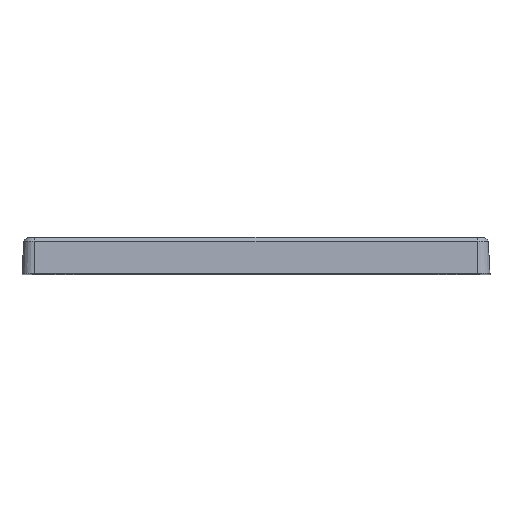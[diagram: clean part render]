
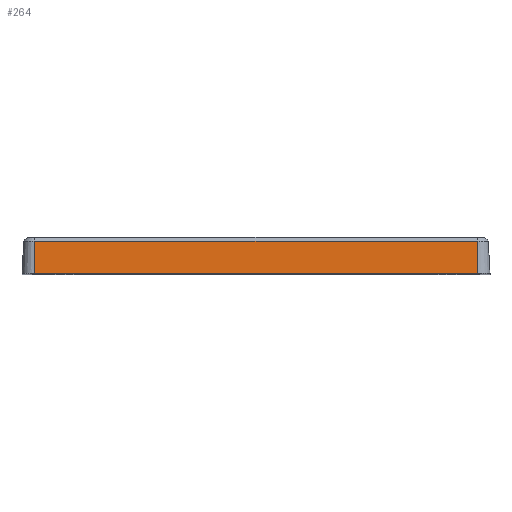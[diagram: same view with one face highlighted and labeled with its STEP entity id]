
A CAD part, top view. The second image highlights one B-rep face of the part: STEP entity #264.
In plain terms, the highlighted planar face has unit normal (0, 0.052, 0.999).
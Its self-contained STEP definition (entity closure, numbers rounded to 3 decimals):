
#65 = EDGE_CURVE ( 'NONE', #285, #269, #865, .T. ) ;
#264 = ADVANCED_FACE ( 'NONE', ( #1247 ), #1246, .T. ) ;
#265 = EDGE_LOOP ( 'NONE', ( #266, #270, #272, #273 ) ) ;
#266 = ORIENTED_EDGE ( 'NONE', *, *, #267, .F. ) ;
#267 = EDGE_CURVE ( 'NONE', #268, #269, #1241, .T. ) ;
#268 = VERTEX_POINT ( 'NONE', #1424 ) ;
#269 = VERTEX_POINT ( 'NONE', #1423 ) ;
#270 = ORIENTED_EDGE ( 'NONE', *, *, #271, .T. ) ;
#271 = EDGE_CURVE ( 'NONE', #268, #284, #1422, .T. ) ;
#272 = ORIENTED_EDGE ( 'NONE', *, *, #283, .T. ) ;
#273 = ORIENTED_EDGE ( 'NONE', *, *, #65, .T. ) ;
#283 = EDGE_CURVE ( 'NONE', #284, #285, #1408, .T. ) ;
#284 = VERTEX_POINT ( 'NONE', #1399 ) ;
#285 = VERTEX_POINT ( 'NONE', #1398 ) ;
#862 = DIRECTION ( 'NONE',  ( 1., 0., 0. ) ) ;
#863 = VECTOR ( 'NONE', #862, 1000. ) ;
#864 = CARTESIAN_POINT ( 'NONE',  ( -61.5, 0., 90. ) ) ;
#865 = LINE ( 'NONE', #864, #863 ) ;
#1240 = CARTESIAN_POINT ( 'NONE',  ( 61.5, 0., 90. ) ) ;
#1241 = LINE ( 'NONE', #1240, #1426 ) ;
#1242 = DIRECTION ( 'NONE',  ( 0., -0.999, 0.052 ) ) ;
#1243 = DIRECTION ( 'NONE',  ( 0., 0.052, 0.999 ) ) ;
#1244 = CARTESIAN_POINT ( 'NONE',  ( -61.5, 0., 90. ) ) ;
#1245 = AXIS2_PLACEMENT_3D ( 'NONE', #1244, #1243, #1242 ) ;
#1246 = PLANE ( 'NONE',  #1245 ) ;
#1247 = FACE_OUTER_BOUND ( 'NONE', #265, .T. ) ;
#1398 = CARTESIAN_POINT ( 'NONE',  ( -61.5, 0., 90. ) ) ;
#1399 = CARTESIAN_POINT ( 'NONE',  ( -61.5, 8.945, 89.531 ) ) ;
#1400 = DIRECTION ( 'NONE',  ( 0., -0.999, 0.052 ) ) ;
#1401 = VECTOR ( 'NONE', #1400, 1000. ) ;
#1402 = CARTESIAN_POINT ( 'NONE',  ( -61.5, 0., 90. ) ) ;
#1408 = LINE ( 'NONE', #1402, #1401 ) ;
#1419 = DIRECTION ( 'NONE',  ( -1., 0., 0. ) ) ;
#1420 = VECTOR ( 'NONE', #1419, 1000. ) ;
#1421 = CARTESIAN_POINT ( 'NONE',  ( -61.5, 8.945, 89.531 ) ) ;
#1422 = LINE ( 'NONE', #1421, #1420 ) ;
#1423 = CARTESIAN_POINT ( 'NONE',  ( 61.5, 0., 90. ) ) ;
#1424 = CARTESIAN_POINT ( 'NONE',  ( 61.5, 8.945, 89.531 ) ) ;
#1425 = DIRECTION ( 'NONE',  ( 0., -0.999, 0.052 ) ) ;
#1426 = VECTOR ( 'NONE', #1425, 1000. ) ;
